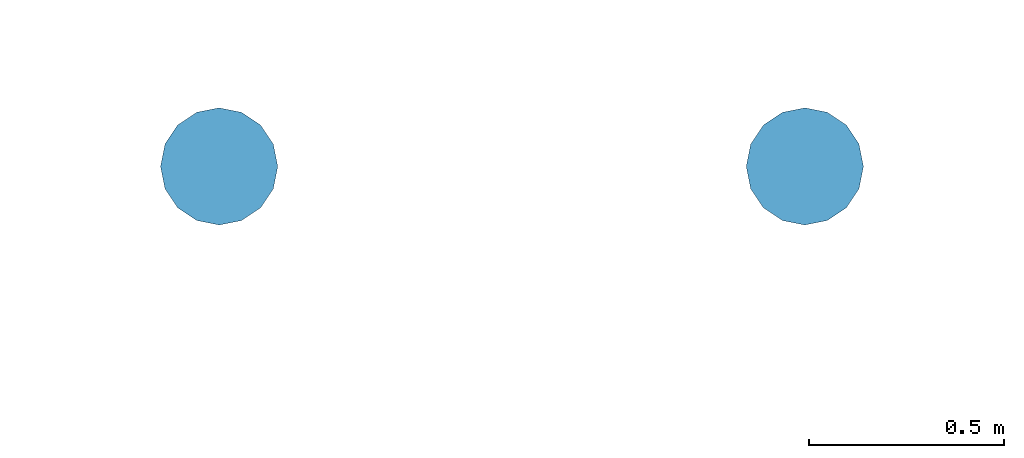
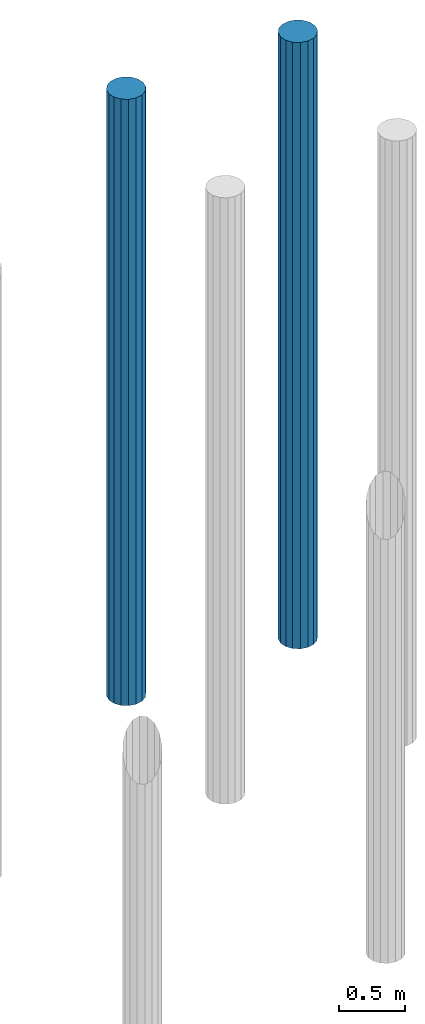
# One storey, part 102 of 102: 2 slabs.
"""IFC2X3 building model written with IfcOpenShell, lengths in millimetres."""

from ifc_helpers import new_model, entity, si_unit, converted_unit, derived_unit, money_unit, direction, frame, origin_with_axes, place, context, subcontext, project, spatial, faceted_brep, material, type_object, element, save


model = new_model("IFC2X3")

# Units and contexts
model_context = context("Model", 3, precision=0.01, world=origin_with_axes(), true_north=direction((0.0, 1.0)))
body_context = subcontext(model_context, "Body", "Model", "MODEL_VIEW")
ifc_project = project(units=[si_unit("LENGTHUNIT", "METRE", prefix="MILLI"), si_unit("AREAUNIT", "SQUARE_METRE"), si_unit("VOLUMEUNIT", "CUBIC_METRE"), converted_unit("PLANEANGLEUNIT", "DEGREE", entity("IfcPlaneAngleMeasure", 0.0174532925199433), si_unit("PLANEANGLEUNIT", "RADIAN"), dimensions=[0, 0, 0, 0, 0, 0, 0]), money_unit("EUR"), converted_unit("TIMEUNIT", "Year", entity("IfcTimeMeasure", 31557600.0), si_unit("TIMEUNIT", "SECOND"), dimensions=[0, 0, 1, 0, 0, 0, 0]), si_unit("MASSUNIT", "GRAM", prefix="KILO"), si_unit("THERMODYNAMICTEMPERATUREUNIT", "DEGREE_CELSIUS"), si_unit("LUMINOUSINTENSITYUNIT", "LUMEN"), si_unit("ENERGYUNIT", "JOULE", prefix="MEGA"), derived_unit("THERMALCONDUCTANCEUNIT", [(si_unit("POWERUNIT", "WATT"), 1), (si_unit("LENGTHUNIT", "METRE"), -1), (si_unit("THERMODYNAMICTEMPERATUREUNIT", "KELVIN"), -1)]), derived_unit("SPECIFICHEATCAPACITYUNIT", [(si_unit("ENERGYUNIT", "JOULE"), 1), (si_unit("MASSUNIT", "GRAM", prefix="KILO"), -1), (si_unit("THERMODYNAMICTEMPERATUREUNIT", "KELVIN"), -1)]), derived_unit("MASSDENSITYUNIT", [(si_unit("MASSUNIT", "GRAM", prefix="KILO"), 1), (si_unit("VOLUMEUNIT", "CUBIC_METRE"), -1)])], contexts=[model_context])

# Site, building, storey
site_placement = place(None, origin_with_axes())
site = spatial("IfcSite", under=ifc_project, at=site_placement, Name="Site", CompositionType="ELEMENT")
building_placement = place(site_placement, origin_with_axes())
building = spatial("IfcBuilding", under=site, at=building_placement, Name="Naam gebouw", CompositionType="ELEMENT")
storey_placement = place(building_placement, frame((0.0, 0.0, -1020.0), z_axis=(0.0, 0.0, 1.0), x_axis=(1.0, 0.0, 0.0)))
storey = spatial("IfcBuildingStorey", under=building, at=storey_placement, Name="-2 fundering", CompositionType="ELEMENT", Elevation=-1020.0)

# Slabs
ifc_material = material(Name="WSP_beton - ihwg beton")
slab_type_1 = type_object("IfcSlabType", Name="Slab 835", PredefinedType="NOTDEFINED")
slab_1_placement = place(storey_placement, frame((25299.99999999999, 30000.0, 979.9999952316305), z_axis=(0.0, 0.0, 1.0), x_axis=(1.0, 0.0, 0.0)))
element("IfcSlab", 1, at=slab_1_placement, inside=storey, type_object=slab_type_1, material=ifc_material, Name="17_WSP_FD_beton - fundatiepaal v21-2:ø300 (schroef)", PredefinedType="NOTDEFINED", context=body_context, shape_type="Brep", body=[
    faceted_brep([(100001.0, 89526.00000000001, -5980.0), (99999.0, 89526.00000000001, -5980.0), (99999.0, 89526.00000000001, -5978.000000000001), (100001.0, 89526.00000000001, -5978.000000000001), (100001.0, 89524.0, -5980.0), (99999.0, 89524.0, -5980.0), (99999.0, 89524.0, -5978.000000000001), (100001.0, 89524.0, -5978.000000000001)], [[[0, 1, 2, 3]], [[0, 4, 5, 1]], [[1, 5, 6, 2]], [[3, 2, 6, 7]], [[4, 0, 3, 7]], [[5, 4, 7, 6]]]),
    faceted_brep([(99850.0, 89525.0, -5980.0), (99861.41807012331, 89467.59748514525, -5980.0), (99861.41807012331, 89467.59748514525, -380.0000000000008), (99850.0, 89525.0, -380.0000000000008), (99861.41807012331, 89582.40251485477, -5980.0), (99893.93398282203, 89631.06601717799, -5980.0), (99942.59748514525, 89663.5819298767, -5980.0), (100000.0, 89675.00000000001, -5980.0), (100057.4025148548, 89663.5819298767, -5980.0), (100106.066017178, 89631.06601717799, -5980.0), (100138.5819298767, 89582.40251485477, -5980.0), (100150.0, 89525.0, -5980.0), (100138.5819298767, 89467.59748514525, -5980.0), (100106.066017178, 89418.93398282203, -5980.0), (100057.4025148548, 89386.41807012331, -5980.0), (100000.0, 89375.0, -5980.0), (99942.59748514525, 89386.41807012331, -5980.0), (99893.93398282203, 89418.93398282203, -5980.0), (99893.93398282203, 89418.93398282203, -380.0000000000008), (99942.59748514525, 89386.41807012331, -380.0000000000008), (100000.0, 89375.0, -380.0000000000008), (100057.4025148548, 89386.41807012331, -380.0000000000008), (100106.066017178, 89418.93398282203, -380.0000000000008), (100138.5819298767, 89467.59748514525, -380.0000000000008), (100150.0, 89525.0, -380.0000000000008), (100138.5819298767, 89582.40251485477, -380.0000000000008), (100106.066017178, 89631.06601717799, -380.0000000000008), (100057.4025148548, 89663.5819298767, -380.0000000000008), (100000.0, 89675.00000000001, -380.0000000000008), (99942.59748514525, 89663.5819298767, -380.0000000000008), (99893.93398282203, 89631.06601717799, -380.0000000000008), (99861.41807012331, 89582.40251485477, -380.0000000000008)], [[[0, 1, 2, 3]], [[0, 4, 5, 6, 7, 8, 9, 10, 11, 12, 13, 14, 15, 16, 17, 1]], [[1, 17, 18, 2]], [[3, 2, 18, 19, 20, 21, 22, 23, 24, 25, 26, 27, 28, 29, 30, 31]], [[4, 0, 3, 31]], [[5, 4, 31, 30]], [[6, 5, 30, 29]], [[7, 6, 29, 28]], [[8, 7, 28, 27]], [[9, 8, 27, 26]], [[10, 9, 26, 25]], [[11, 10, 25, 24]], [[12, 11, 24, 23]], [[13, 12, 23, 22]], [[14, 13, 22, 21]], [[15, 14, 21, 20]], [[16, 15, 20, 19]], [[17, 16, 19, 18]]]),
])
slab_type_2 = type_object("IfcSlabType", Name="Slab 836", PredefinedType="NOTDEFINED")
slab_2_placement = place(storey_placement, frame((25299.99999999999, 30000.0, 979.9999952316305), z_axis=(0.0, 0.0, 1.0), x_axis=(1.0, 0.0, 0.0)))
element("IfcSlab", 2, at=slab_2_placement, inside=storey, type_object=slab_type_2, material=ifc_material, Name="17_WSP_FD_beton - fundatiepaal v21-2:ø300 (schroef)", PredefinedType="NOTDEFINED", context=body_context, shape_type="Brep", body=[
    faceted_brep([(101501.0, 89526.00000000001, -5980.0), (101499.0, 89526.00000000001, -5980.0), (101499.0, 89526.00000000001, -5978.000000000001), (101501.0, 89526.00000000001, -5978.000000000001), (101501.0, 89524.0, -5980.0), (101499.0, 89524.0, -5980.0), (101499.0, 89524.0, -5978.000000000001), (101501.0, 89524.0, -5978.000000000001)], [[[0, 1, 2, 3]], [[0, 4, 5, 1]], [[1, 5, 6, 2]], [[3, 2, 6, 7]], [[4, 0, 3, 7]], [[5, 4, 7, 6]]]),
    faceted_brep([(101350.0, 89525.0, -5980.0), (101361.4180701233, 89467.59748514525, -5980.0), (101361.4180701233, 89467.59748514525, -380.0000000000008), (101350.0, 89525.0, -380.0000000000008), (101361.4180701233, 89582.40251485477, -5980.0), (101393.933982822, 89631.06601717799, -5980.0), (101442.5974851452, 89663.5819298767, -5980.0), (101500.0, 89675.00000000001, -5980.0), (101557.4025148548, 89663.5819298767, -5980.0), (101606.066017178, 89631.06601717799, -5980.0), (101638.5819298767, 89582.40251485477, -5980.0), (101650.0, 89525.0, -5980.0), (101638.5819298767, 89467.59748514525, -5980.0), (101606.066017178, 89418.93398282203, -5980.0), (101557.4025148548, 89386.41807012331, -5980.0), (101500.0, 89375.0, -5980.0), (101442.5974851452, 89386.41807012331, -5980.0), (101393.933982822, 89418.93398282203, -5980.0), (101393.933982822, 89418.93398282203, -380.0000000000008), (101442.5974851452, 89386.41807012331, -380.0000000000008), (101500.0, 89375.0, -380.0000000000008), (101557.4025148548, 89386.41807012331, -380.0000000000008), (101606.066017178, 89418.93398282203, -380.0000000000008), (101638.5819298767, 89467.59748514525, -380.0000000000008), (101650.0, 89525.0, -380.0000000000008), (101638.5819298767, 89582.40251485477, -380.0000000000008), (101606.066017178, 89631.06601717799, -380.0000000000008), (101557.4025148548, 89663.5819298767, -380.0000000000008), (101500.0, 89675.00000000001, -380.0000000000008), (101442.5974851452, 89663.5819298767, -380.0000000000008), (101393.933982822, 89631.06601717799, -380.0000000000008), (101361.4180701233, 89582.40251485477, -380.0000000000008)], [[[0, 1, 2, 3]], [[0, 4, 5, 6, 7, 8, 9, 10, 11, 12, 13, 14, 15, 16, 17, 1]], [[1, 17, 18, 2]], [[3, 2, 18, 19, 20, 21, 22, 23, 24, 25, 26, 27, 28, 29, 30, 31]], [[4, 0, 3, 31]], [[5, 4, 31, 30]], [[6, 5, 30, 29]], [[7, 6, 29, 28]], [[8, 7, 28, 27]], [[9, 8, 27, 26]], [[10, 9, 26, 25]], [[11, 10, 25, 24]], [[12, 11, 24, 23]], [[13, 12, 23, 22]], [[14, 13, 22, 21]], [[15, 14, 21, 20]], [[16, 15, 20, 19]], [[17, 16, 19, 18]]]),
])

save(model, "model.ifc")
